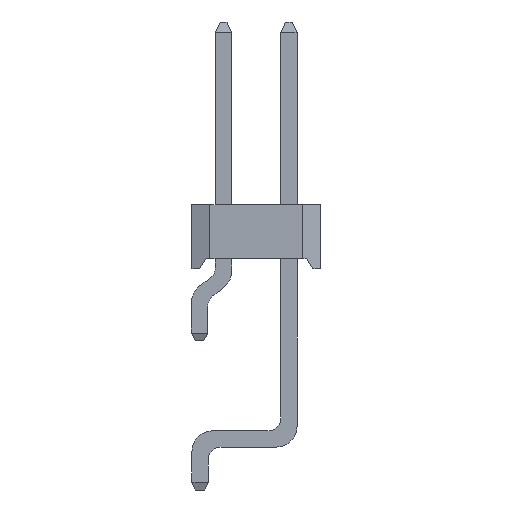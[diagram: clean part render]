
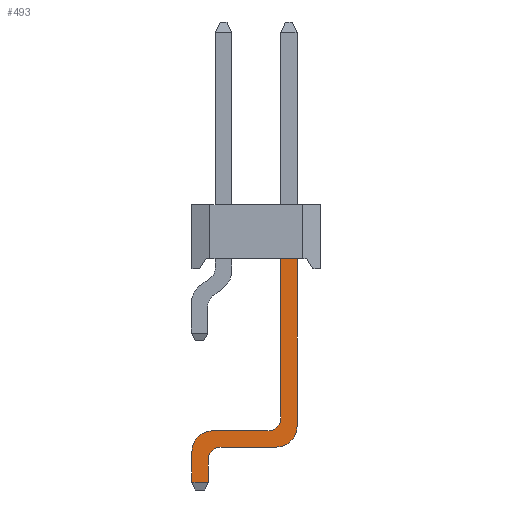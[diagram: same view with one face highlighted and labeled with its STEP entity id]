
A CAD part, left-side view. The second image highlights one B-rep face of the part: STEP entity #493.
In plain terms, the highlighted planar face has unit normal (-1, 0, 0).
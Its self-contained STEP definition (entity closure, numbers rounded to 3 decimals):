
#146=CIRCLE('',#8312,0.8);
#147=CIRCLE('',#8313,0.5);
#148=CIRCLE('',#8314,0.8);
#149=CIRCLE('',#8315,0.5);
#493=ADVANCED_FACE('',(#1311),#903,.T.);
#903=PLANE('',#8316);
#1311=FACE_OUTER_BOUND('',#1777,.T.);
#1777=EDGE_LOOP('',(#3358,#3359,#3360,#3361,#3362,#3363,#3364,#3365,#3366,
#3367,#3368,#3369));
#3358=ORIENTED_EDGE('',*,*,#5614,.T.);
#3359=ORIENTED_EDGE('',*,*,#5615,.T.);
#3360=ORIENTED_EDGE('',*,*,#5616,.F.);
#3361=ORIENTED_EDGE('',*,*,#4946,.F.);
#3362=ORIENTED_EDGE('',*,*,#5617,.T.);
#3363=ORIENTED_EDGE('',*,*,#5618,.T.);
#3364=ORIENTED_EDGE('',*,*,#5619,.F.);
#3365=ORIENTED_EDGE('',*,*,#5620,.T.);
#3366=ORIENTED_EDGE('',*,*,#5621,.T.);
#3367=ORIENTED_EDGE('',*,*,#5622,.T.);
#3368=ORIENTED_EDGE('',*,*,#5623,.F.);
#3369=ORIENTED_EDGE('',*,*,#5624,.T.);
#4242=VERTEX_POINT('',#10787);
#4243=VERTEX_POINT('',#10788);
#4666=VERTEX_POINT('',#12130);
#4667=VERTEX_POINT('',#12131);
#4668=VERTEX_POINT('',#12133);
#4669=VERTEX_POINT('',#12136);
#4670=VERTEX_POINT('',#12138);
#4671=VERTEX_POINT('',#12140);
#4672=VERTEX_POINT('',#12142);
#4673=VERTEX_POINT('',#12144);
#4674=VERTEX_POINT('',#12146);
#4675=VERTEX_POINT('',#12148);
#4946=EDGE_CURVE('',#4242,#4243,#6058,.T.);
#5614=EDGE_CURVE('',#4666,#4667,#6670,.T.);
#5615=EDGE_CURVE('',#4667,#4668,#146,.T.);
#5616=EDGE_CURVE('',#4243,#4668,#6671,.T.);
#5617=EDGE_CURVE('',#4242,#4669,#6672,.T.);
#5618=EDGE_CURVE('',#4669,#4670,#147,.T.);
#5619=EDGE_CURVE('',#4671,#4670,#6673,.T.);
#5620=EDGE_CURVE('',#4671,#4672,#148,.T.);
#5621=EDGE_CURVE('',#4672,#4673,#6674,.T.);
#5622=EDGE_CURVE('',#4673,#4674,#6675,.T.);
#5623=EDGE_CURVE('',#4675,#4674,#6676,.T.);
#5624=EDGE_CURVE('',#4675,#4666,#149,.T.);
#6058=LINE('',#10786,#7058);
#6670=LINE('',#12129,#7670);
#6671=LINE('',#12134,#7671);
#6672=LINE('',#12135,#7672);
#6673=LINE('',#12139,#7673);
#6674=LINE('',#12143,#7674);
#6675=LINE('',#12145,#7675);
#6676=LINE('',#12147,#7676);
#7058=VECTOR('',#8631,1.);
#7670=VECTOR('',#9857,1.);
#7671=VECTOR('',#9860,1.);
#7672=VECTOR('',#9861,1.);
#7673=VECTOR('',#9864,1.);
#7674=VECTOR('',#9867,1.);
#7675=VECTOR('',#9868,1.);
#7676=VECTOR('',#9869,1.);
#8312=AXIS2_PLACEMENT_3D('',#12132,#9858,#9859);
#8313=AXIS2_PLACEMENT_3D('',#12137,#9862,#9863);
#8314=AXIS2_PLACEMENT_3D('',#12141,#9865,#9866);
#8315=AXIS2_PLACEMENT_3D('',#12149,#9870,#9871);
#8316=AXIS2_PLACEMENT_3D('',#12150,#9872,#9873);
#8631=DIRECTION('',(0.,-1.,0.));
#9857=DIRECTION('',(0.,-1.,0.));
#9858=DIRECTION('',(-1.,0.,0.));
#9859=DIRECTION('',(0.,-1.,0.));
#9860=DIRECTION('',(0.,0.,-1.));
#9861=DIRECTION('',(0.,0.,-1.));
#9862=DIRECTION('',(1.,0.,0.));
#9863=DIRECTION('',(0.,-1.,0.));
#9864=DIRECTION('',(0.,-1.,0.));
#9865=DIRECTION('',(-1.,0.,0.));
#9866=DIRECTION('',(0.,-1.,0.));
#9867=DIRECTION('',(0.,0.,-1.));
#9868=DIRECTION('',(0.,-1.,0.));
#9869=DIRECTION('',(0.,0.,-1.));
#9870=DIRECTION('',(1.,0.,0.));
#9871=DIRECTION('',(0.,-1.,0.));
#9872=DIRECTION('',(-1.,0.,0.));
#9873=DIRECTION('',(0.,-1.,0.));
#10786=CARTESIAN_POINT('',(0.955,1.545,0.));
#10787=CARTESIAN_POINT('',(0.955,1.545,0.));
#10788=CARTESIAN_POINT('',(0.955,0.915,0.));
#12129=CARTESIAN_POINT('',(0.955,5.,-7.33));
#12130=CARTESIAN_POINT('',(0.955,3.87,-7.33));
#12131=CARTESIAN_POINT('',(0.955,1.715,-7.33));
#12132=CARTESIAN_POINT('',(0.955,1.715,-6.53));
#12133=CARTESIAN_POINT('',(0.955,0.915,-6.53));
#12134=CARTESIAN_POINT('',(0.955,0.915,-6.7));
#12135=CARTESIAN_POINT('',(0.955,1.545,-6.7));
#12136=CARTESIAN_POINT('',(0.955,1.545,-6.2));
#12137=CARTESIAN_POINT('',(0.955,2.045,-6.2));
#12138=CARTESIAN_POINT('',(0.955,2.045,-6.7));
#12139=CARTESIAN_POINT('',(0.955,5.,-6.7));
#12140=CARTESIAN_POINT('',(0.955,4.2,-6.7));
#12141=CARTESIAN_POINT('',(0.955,4.2,-7.5));
#12142=CARTESIAN_POINT('',(0.955,5.,-7.5));
#12143=CARTESIAN_POINT('',(0.955,5.,-7.33));
#12144=CARTESIAN_POINT('',(0.955,5.,-8.7));
#12145=CARTESIAN_POINT('',(0.955,1.545,-8.7));
#12146=CARTESIAN_POINT('',(0.955,4.37,-8.7));
#12147=CARTESIAN_POINT('',(0.955,4.37,-9.));
#12148=CARTESIAN_POINT('',(0.955,4.37,-7.83));
#12149=CARTESIAN_POINT('',(0.955,3.87,-7.83));
#12150=CARTESIAN_POINT('',(0.955,1.545,0.));
